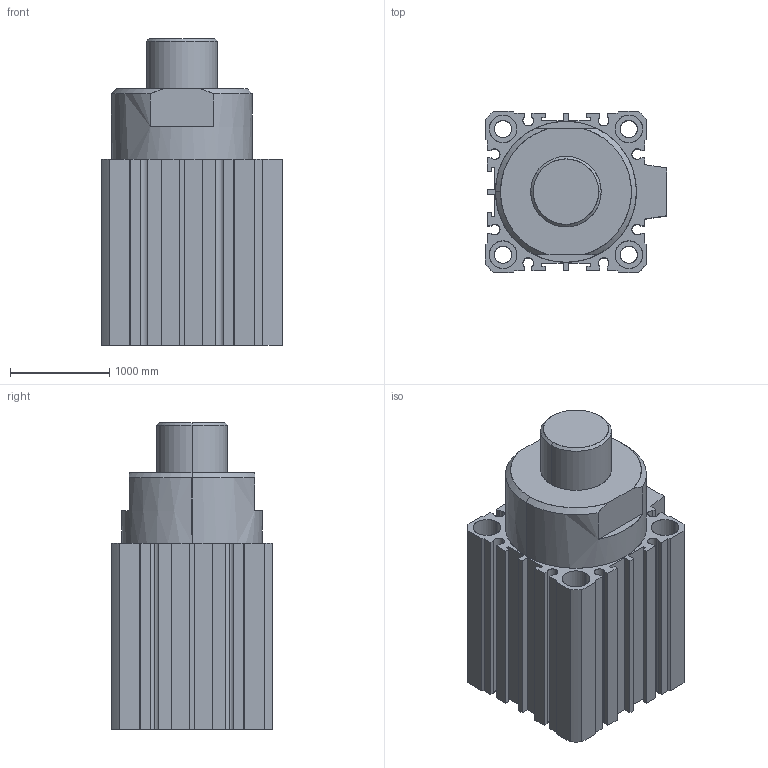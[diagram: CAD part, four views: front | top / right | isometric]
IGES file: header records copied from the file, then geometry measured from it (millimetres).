
Start section: SolidWorks IGES file using analytic representation for surfaces
Global section: file name: C:\Documents and Settings\Standard\Bureau\NM pieces 3d\ELO 50 20 tige sortie.IGS; native system: SolidWorks 2007; preprocessor: SolidWorks 2007; author: Standard; date: 080328.110850; units: millimetre
Bounding box: 1828.8 x 1625.6 x 3098.8 mm (x, y, z)
Surface area: 42422245.6 mm2 (no closed solid volume)
Topology: 0 solids, 0 shells, 580 faces, 12719 edges, 12759 vertices
Faces by surface type: bspline 517, revolution 63
